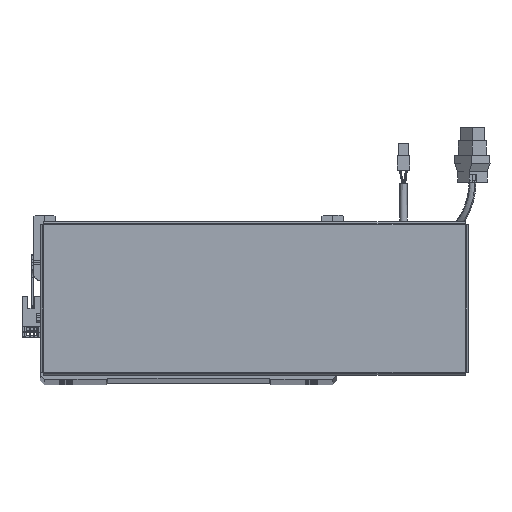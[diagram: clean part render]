
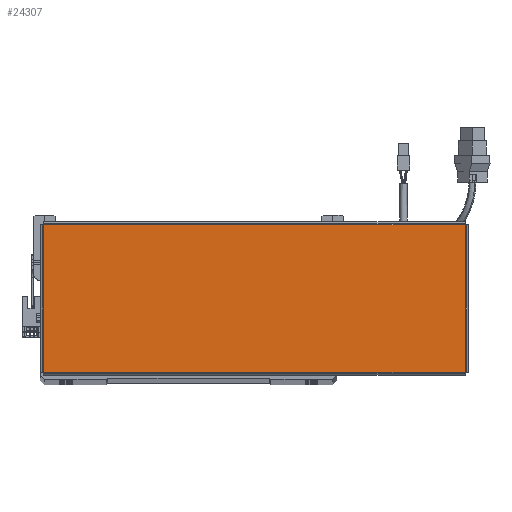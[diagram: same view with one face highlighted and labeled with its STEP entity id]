
A CAD part, top view. The second image highlights one B-rep face of the part: STEP entity #24307.
In plain terms, the highlighted planar face has unit normal (0, 0, 1).
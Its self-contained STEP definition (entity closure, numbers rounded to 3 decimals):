
#2623 = PLANE ( 'NONE',  #9526 ) ;
#4809 = LINE ( 'NONE', #71402, #24705 ) ;
#8541 = VECTOR ( 'NONE', #56216, 1000. ) ;
#9016 = EDGE_LOOP ( 'NONE', ( #36643, #77440, #35238, #31734 ) ) ;
#9111 = CARTESIAN_POINT ( 'NONE',  ( 156.513, 54.763, 0. ) ) ;
#9526 = AXIS2_PLACEMENT_3D ( 'NONE', #74483, #26675, #62847 ) ;
#18326 = CARTESIAN_POINT ( 'NONE',  ( 156.513, -54.763, 0. ) ) ;
#20857 = LINE ( 'NONE', #32232, #8541 ) ;
#20901 = EDGE_CURVE ( 'NONE', #48090, #39753, #57739, .T. ) ;
#20961 = VECTOR ( 'NONE', #41863, 1000. ) ;
#22560 = DIRECTION ( 'NONE',  ( 0., -1., 0. ) ) ;
#23257 = VERTEX_POINT ( 'NONE', #18326 ) ;
#24307 = ADVANCED_FACE ( 'NONE', ( #48086 ), #2623, .T. ) ;
#24705 = VECTOR ( 'NONE', #22560, 1000. ) ;
#26675 = DIRECTION ( 'NONE',  ( 0., 0., 1. ) ) ;
#29982 = DIRECTION ( 'NONE',  ( 0., 1., 0. ) ) ;
#31734 = ORIENTED_EDGE ( 'NONE', *, *, #40013, .T. ) ;
#32232 = CARTESIAN_POINT ( 'NONE',  ( -156.543, -54.763, 0. ) ) ;
#35238 = ORIENTED_EDGE ( 'NONE', *, *, #20901, .T. ) ;
#36643 = ORIENTED_EDGE ( 'NONE', *, *, #68323, .T. ) ;
#37349 = CARTESIAN_POINT ( 'NONE',  ( -156.513, -54.763, 0. ) ) ;
#39753 = VERTEX_POINT ( 'NONE', #62960 ) ;
#40013 = EDGE_CURVE ( 'NONE', #39753, #48446, #4809, .T. ) ;
#41863 = DIRECTION ( 'NONE',  ( -1., 0., 0. ) ) ;
#41866 = CARTESIAN_POINT ( 'NONE',  ( 156.513, -54.793, 0. ) ) ;
#48086 = FACE_OUTER_BOUND ( 'NONE', #9016, .T. ) ;
#48090 = VERTEX_POINT ( 'NONE', #9111 ) ;
#48446 = VERTEX_POINT ( 'NONE', #37349 ) ;
#51103 = VECTOR ( 'NONE', #29982, 1000. ) ;
#56216 = DIRECTION ( 'NONE',  ( 1., 0., 0. ) ) ;
#57739 = LINE ( 'NONE', #71965, #20961 ) ;
#58690 = LINE ( 'NONE', #41866, #51103 ) ;
#62847 = DIRECTION ( 'NONE',  ( 1., 0., 0. ) ) ;
#62960 = CARTESIAN_POINT ( 'NONE',  ( -156.513, 54.763, 0. ) ) ;
#68323 = EDGE_CURVE ( 'NONE', #48446, #23257, #20857, .T. ) ;
#71402 = CARTESIAN_POINT ( 'NONE',  ( -156.513, 54.793, 0. ) ) ;
#71965 = CARTESIAN_POINT ( 'NONE',  ( 156.543, 54.763, 0. ) ) ;
#74483 = CARTESIAN_POINT ( 'NONE',  ( 0., 0., 0. ) ) ;
#77147 = EDGE_CURVE ( 'NONE', #23257, #48090, #58690, .T. ) ;
#77440 = ORIENTED_EDGE ( 'NONE', *, *, #77147, .T. ) ;
